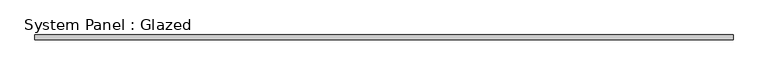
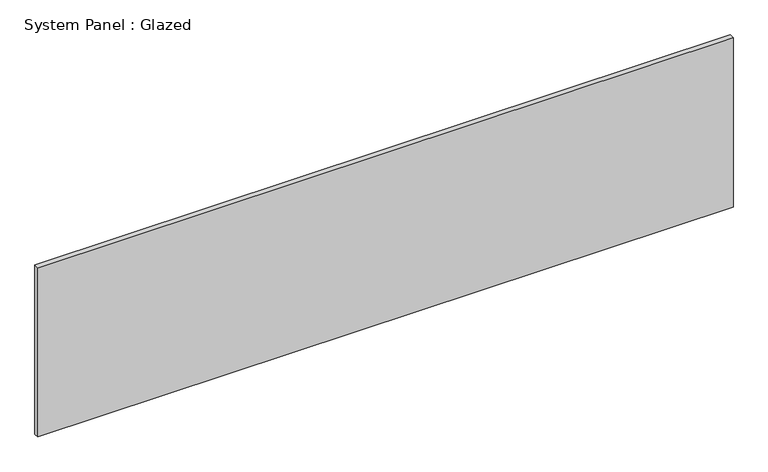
"""IFC4 building model written with IfcOpenShell, lengths in millimetres: plate geometry, System Panel : Glazed."""

from ifc_helpers import new_model, si_unit, origin, origin_with_axes, place, context, project, spatial, polyline, outline, extrude, source, transform, mapped, element, save


def system_panel_glazed_45b61f71(model_context):
    return source(origin(), model_context, "Body", "SweptSolid", [
        extrude(outline(polyline([(1747.5, 24.5), (-1747.5, 24.5), (-1747.5, 49.5), (1747.5, 49.5), (1747.5, 24.5)])), origin_with_axes(), (0.0, 0.0, 1.0), 900.0),
    ])


if __name__ == "__main__":
    model = new_model("IFC4")
    model_context = context("Model", 3, world=origin())
    ifc_project = project(units=[si_unit("LENGTHUNIT", "METRE", prefix="MILLI")], contexts=[model_context])
    site = spatial("IfcSite", under=ifc_project)
    building = spatial("IfcBuilding", under=site)
    placement = place(None, origin())
    system_panel_glazed_shape = system_panel_glazed_45b61f71(model_context)
    element("IfcPlate", 1, ObjectType="System Panel : Glazed", at=placement, inside=building, context=model_context, shape_type="MappedRepresentation", body=[
        mapped(system_panel_glazed_shape, transform((0.0, 0.0, 0.0), x_axis=(1.0, 0.0, 0.0), y_axis=(0.0, 1.0, 0.0), z_axis=(0.0, 0.0, 1.0))),
    ])
    save(model, "model.ifc")
